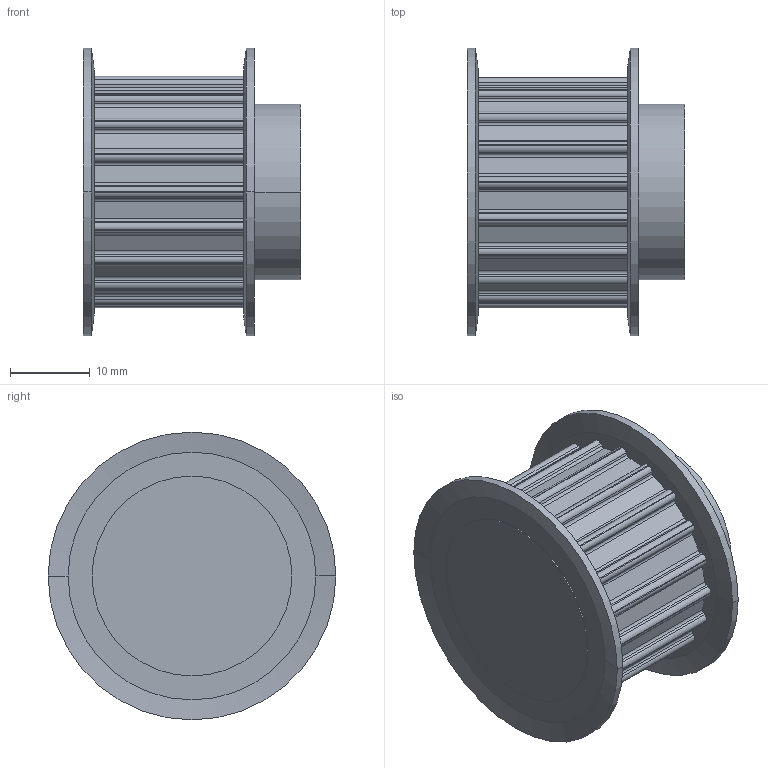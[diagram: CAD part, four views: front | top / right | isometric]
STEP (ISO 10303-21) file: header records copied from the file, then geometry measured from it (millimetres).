
FILE_DESCRIPTION( ( '' ), '1' );
FILE_NAME( 'C:/Users/Stangenbergd/Documents/CAD_Step/1/16631900.stp', '2021-10-19T09:36:10', ( '' ), ( '' ), ' ', ' ', ' ' );
FILE_SCHEMA( ( 'CONFIG_CONTROL_DESIGN' ) );
Length unit declared in the file: millimetre
Products named in the file (1): 1
Bounding box: 27.2 x 36 x 36 mm (x, y, z)
Volume: 15598.7 mm3; surface area: 5560.5 mm2
Topology: 1 solids, 1 shells, 178 faces, 505 edges, 334 vertices
Faces by surface type: cylinder 106, plane 64, cone 8
Entity records: 5909 total; most frequent: DIRECTION 1083, CARTESIAN_POINT 1018, ORIENTED_EDGE 1010, EDGE_CURVE 505, AXIS2_PLACEMENT_3D 399, VERTEX_POINT 334, LINE 285, VECTOR 285
